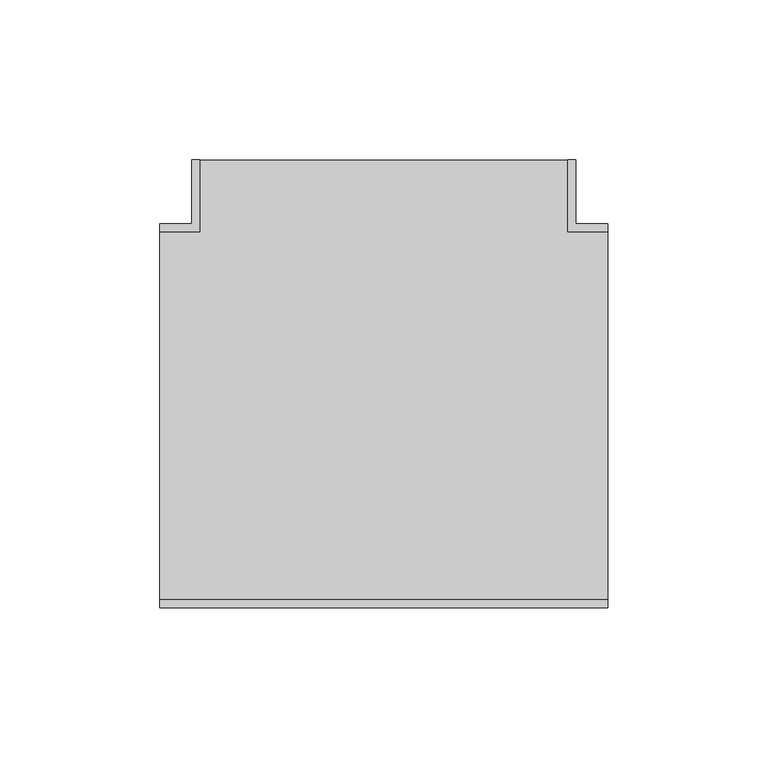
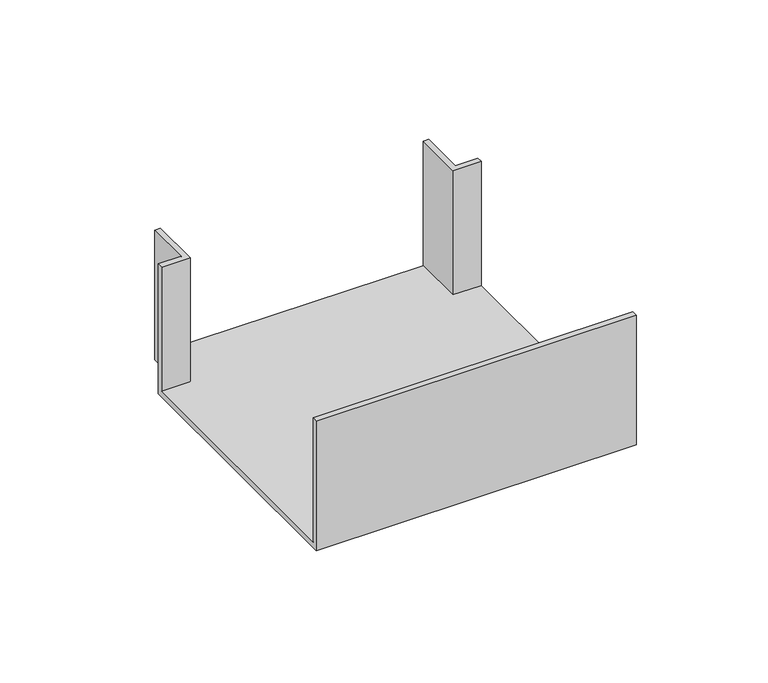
"""IFC4 building model written with IfcOpenShell, lengths in millimetres: cable carrier fitting geometry, КНС_ТройникNTAN_ILC_DKC : Тройник/отвод."""

from ifc_helpers import new_model, si_unit, origin, place, context, project, spatial, faceted_brep, source, transform, mapped, element, save


def cable_carrier_fitting_7ee510ea(model_context):
    return source(origin(), model_context, "Body", "Brep", [
        faceted_brep([(70.0, -57.5, -27.5), (70.0, 57.5, -27.5), (57.5, 57.5, -27.5), (57.5, 80.0, -27.5), (-57.5, 80.0, -27.5), (-57.5, 57.5, -27.5), (-70.0, 57.5, -27.5), (-70.0, -57.5, -27.5), (70.0, -60.0, -30.0), (-70.0, -60.0, -30.0), (-70.0, 60.0, -30.0), (-60.0, 60.0, -30.0), (-60.0, 80.0, -30.0), (60.0, 80.0, -30.0), (60.0, 60.0, -30.0), (70.0, 60.0, -30.0), (70.0, 60.0, 30.0), (70.0, 57.5, 30.0), (70.0, -57.5, 30.0), (70.0, -60.0, 30.0), (60.0, 60.0, 30.0), (60.0, 80.0, 30.0), (-60.0, 80.0, 30.0), (-57.5, 80.0, 30.0), (57.5, 80.0, 30.0), (-60.0, 60.0, 30.0), (-70.0, 60.0, 30.0), (-70.0, -60.0, 30.0), (-70.0, -57.5, 30.0), (-70.0, 57.5, 30.0), (57.5, 57.5, 30.0), (-57.5, 57.5, 30.0)], [[[0, 1, 2, 3, 4, 5, 6, 7]], [[8, 9, 10, 11, 12, 13, 14, 15]], [[8, 15, 16, 17, 1, 0, 18, 19]], [[16, 15, 14, 20]], [[20, 14, 13, 21]], [[21, 13, 12, 22, 23, 4, 3, 24]], [[22, 12, 11, 25]], [[25, 11, 10, 26]], [[26, 10, 9, 27, 28, 7, 6, 29]], [[27, 9, 8, 19]], [[20, 21, 24, 30, 17, 16]], [[25, 26, 29, 31, 23, 22]], [[27, 19, 18, 28]], [[31, 29, 6, 5]], [[23, 31, 5, 4]], [[30, 24, 3, 2]], [[17, 30, 2, 1]], [[28, 18, 0, 7]]]),
    ])


if __name__ == "__main__":
    model = new_model("IFC4")
    model_context = context("Model", 3, world=origin())
    ifc_project = project(units=[si_unit("LENGTHUNIT", "METRE", prefix="MILLI")], contexts=[model_context])
    site = spatial("IfcSite", under=ifc_project)
    building = spatial("IfcBuilding", under=site)
    placement = place(None, origin())
    cable_carrier_fitting_shape = cable_carrier_fitting_7ee510ea(model_context)
    element("IfcCableCarrierFitting", 1, ObjectType="КНС_ТройникNTAN_ILC_DKC : Тройник/отвод", at=placement, inside=building, context=model_context, shape_type="MappedRepresentation", body=[
        mapped(cable_carrier_fitting_shape, transform((0.0, 0.0, 0.0), x_axis=(1.0, 0.0, 0.0), y_axis=(0.0, 1.0, 0.0), z_axis=(0.0, 0.0, 1.0))),
    ])
    save(model, "model.ifc")
